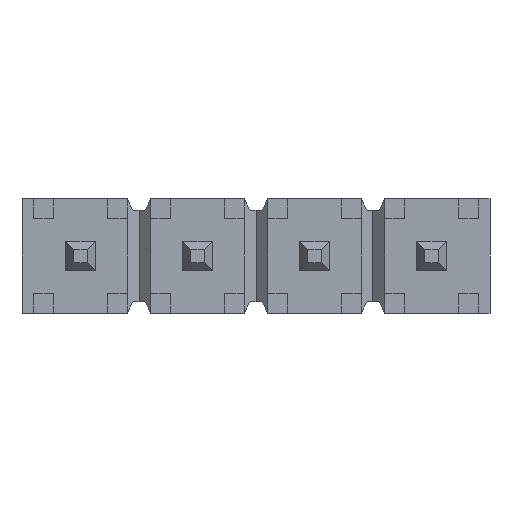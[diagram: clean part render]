
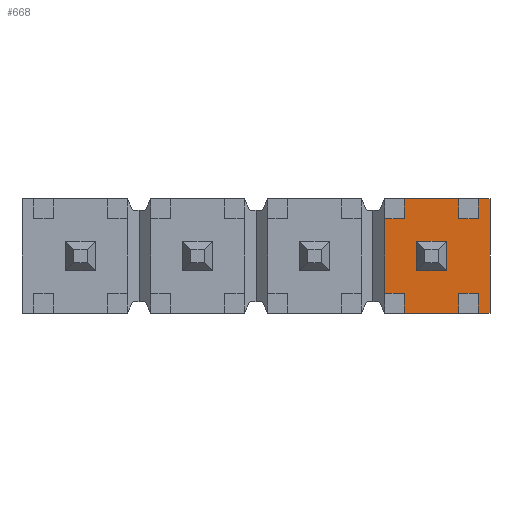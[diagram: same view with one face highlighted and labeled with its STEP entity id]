
A CAD part, front view. The second image highlights one B-rep face of the part: STEP entity #668.
In plain terms, the highlighted planar face has unit normal (0, -1, 0).
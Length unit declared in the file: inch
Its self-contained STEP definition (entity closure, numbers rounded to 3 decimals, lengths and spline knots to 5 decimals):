
#668 = ADVANCED_FACE( '', ( #1329, #1330 ), #1331, .T. );
#1329 = FACE_OUTER_BOUND( '', #1977, .T. );
#1330 = FACE_BOUND( '', #1978, .T. );
#1331 = PLANE( '', #1979 );
#1977 = EDGE_LOOP( '', ( #3768, #3769, #3770, #3771, #3772, #3773, #3774, #3775, #3776, #3777, #3778, #3779, #3780, #3781, #3782, #3783 ) );
#1978 = EDGE_LOOP( '', ( #3784, #3785, #3786, #3787 ) );
#1979 = AXIS2_PLACEMENT_3D( '', #3788, #3789, #3790 );
#3768 = ORIENTED_EDGE( '', *, *, #4359, .T. );
#3769 = ORIENTED_EDGE( '', *, *, #4564, .T. );
#3770 = ORIENTED_EDGE( '', *, *, #4173, .T. );
#3771 = ORIENTED_EDGE( '', *, *, #4110, .T. );
#3772 = ORIENTED_EDGE( '', *, *, #4376, .F. );
#3773 = ORIENTED_EDGE( '', *, *, #4563, .T. );
#3774 = ORIENTED_EDGE( '', *, *, #4511, .T. );
#3775 = ORIENTED_EDGE( '', *, *, #4463, .T. );
#3776 = ORIENTED_EDGE( '', *, *, #4368, .F. );
#3777 = ORIENTED_EDGE( '', *, *, #4006, .F. );
#3778 = ORIENTED_EDGE( '', *, *, #4298, .T. );
#3779 = ORIENTED_EDGE( '', *, *, #4049, .T. );
#3780 = ORIENTED_EDGE( '', *, *, #3878, .F. );
#3781 = ORIENTED_EDGE( '', *, *, #4131, .F. );
#3782 = ORIENTED_EDGE( '', *, *, #4037, .T. );
#3783 = ORIENTED_EDGE( '', *, *, #4048, .T. );
#3784 = ORIENTED_EDGE( '', *, *, #4028, .F. );
#3785 = ORIENTED_EDGE( '', *, *, #4429, .F. );
#3786 = ORIENTED_EDGE( '', *, *, #3995, .F. );
#3787 = ORIENTED_EDGE( '', *, *, #4502, .F. );
#3788 = CARTESIAN_POINT( '', ( 0.23637, 0.02, 0.098 ) );
#3789 = DIRECTION( '', ( 0., -1., 0. ) );
#3790 = DIRECTION( '', ( 1., 0., 0. ) );
#3878 = EDGE_CURVE( '', #4613, #4615, #4616, .T. );
#3995 = EDGE_CURVE( '', #4822, #4824, #4825, .T. );
#4006 = EDGE_CURVE( '', #4842, #4844, #4845, .T. );
#4028 = EDGE_CURVE( '', #4877, #4879, #4880, .T. );
#4037 = EDGE_CURVE( '', #4894, #4895, #4896, .T. );
#4048 = EDGE_CURVE( '', #4895, #4911, #4913, .T. );
#4049 = EDGE_CURVE( '', #4914, #4615, #4915, .T. );
#4110 = EDGE_CURVE( '', #5009, #5007, #5010, .T. );
#4131 = EDGE_CURVE( '', #4894, #4613, #5044, .T. );
#4173 = EDGE_CURVE( '', #5105, #5009, #5106, .T. );
#4298 = EDGE_CURVE( '', #4842, #4914, #5281, .T. );
#4359 = EDGE_CURVE( '', #4911, #5360, #5361, .T. );
#4368 = EDGE_CURVE( '', #4844, #5367, #5375, .T. );
#4376 = EDGE_CURVE( '', #5384, #5007, #5385, .T. );
#4429 = EDGE_CURVE( '', #4824, #4877, #5454, .T. );
#4463 = EDGE_CURVE( '', #5496, #5367, #5497, .T. );
#4502 = EDGE_CURVE( '', #4879, #4822, #5538, .T. );
#4511 = EDGE_CURVE( '', #5548, #5496, #5549, .T. );
#4563 = EDGE_CURVE( '', #5384, #5548, #5603, .T. );
#4564 = EDGE_CURVE( '', #5360, #5105, #5604, .T. );
#4613 = VERTEX_POINT( '', #5669 );
#4615 = VERTEX_POINT( '', #5672 );
#4616 = LINE( '', #5673, #5674 );
#4822 = VERTEX_POINT( '', #5975 );
#4824 = VERTEX_POINT( '', #5978 );
#4825 = LINE( '', #5979, #5980 );
#4842 = VERTEX_POINT( '', #6004 );
#4844 = VERTEX_POINT( '', #6007 );
#4845 = LINE( '', #6008, #6009 );
#4877 = VERTEX_POINT( '', #6056 );
#4879 = VERTEX_POINT( '', #6059 );
#4880 = LINE( '', #6060, #6061 );
#4894 = VERTEX_POINT( '', #6081 );
#4895 = VERTEX_POINT( '', #6082 );
#4896 = LINE( '', #6083, #6084 );
#4911 = VERTEX_POINT( '', #6106 );
#4913 = LINE( '', #6109, #6110 );
#4914 = VERTEX_POINT( '', #6111 );
#4915 = LINE( '', #6112, #6113 );
#5007 = VERTEX_POINT( '', #6250 );
#5009 = VERTEX_POINT( '', #6253 );
#5010 = LINE( '', #6254, #6255 );
#5044 = LINE( '', #6304, #6305 );
#5105 = VERTEX_POINT( '', #6396 );
#5106 = LINE( '', #6397, #6398 );
#5281 = LINE( '', #6668, #6669 );
#5360 = VERTEX_POINT( '', #6791 );
#5361 = LINE( '', #6792, #6793 );
#5367 = VERTEX_POINT( '', #6801 );
#5375 = LINE( '', #6814, #6815 );
#5384 = VERTEX_POINT( '', #6828 );
#5385 = LINE( '', #6829, #6830 );
#5454 = LINE( '', #6934, #6935 );
#5496 = VERTEX_POINT( '', #7000 );
#5497 = LINE( '', #7001, #7002 );
#5538 = LINE( '', #7065, #7066 );
#5548 = VERTEX_POINT( '', #7080 );
#5549 = LINE( '', #7081, #7082 );
#5603 = LINE( '', #7154, #7155 );
#5604 = LINE( '', #7156, #7157 );
#5669 = CARTESIAN_POINT( '', ( 0.17312, 0.02, -0.032 ) );
#5672 = CARTESIAN_POINT( '', ( 0.17312, 0.02, -0.049 ) );
#5673 = CARTESIAN_POINT( '', ( 0.17312, 0.02, 0.098 ) );
#5674 = VECTOR( '', #7187, 39.37008 );
#5975 = CARTESIAN_POINT( '', ( 0.1625, 0.02, -0.0125 ) );
#5978 = CARTESIAN_POINT( '', ( 0.1625, 0.02, 0.0125 ) );
#5979 = CARTESIAN_POINT( '', ( 0.1625, 0.02, 0.0125 ) );
#5980 = VECTOR( '', #7284, 39.37008 );
#6004 = CARTESIAN_POINT( '', ( 0.12688, 0.02, -0.032 ) );
#6007 = CARTESIAN_POINT( '', ( 0.11, 0.02, -0.032 ) );
#6008 = CARTESIAN_POINT( '', ( 0.4, 0.02, -0.032 ) );
#6009 = VECTOR( '', #7293, 39.37008 );
#6056 = CARTESIAN_POINT( '', ( 0.1375, 0.02, 0.0125 ) );
#6059 = CARTESIAN_POINT( '', ( 0.1375, 0.02, -0.0125 ) );
#6060 = CARTESIAN_POINT( '', ( 0.1375, 0.02, -0.0125 ) );
#6061 = VECTOR( '', #7310, 39.37008 );
#6081 = CARTESIAN_POINT( '', ( 0.19012, 0.02, -0.032 ) );
#6082 = CARTESIAN_POINT( '', ( 0.19012, 0.02, -0.049 ) );
#6083 = CARTESIAN_POINT( '', ( 0.19012, 0.02, 0.098 ) );
#6084 = VECTOR( '', #7317, 39.37008 );
#6106 = CARTESIAN_POINT( '', ( 0.2, 0.02, -0.049 ) );
#6109 = CARTESIAN_POINT( '', ( 0.2, 0.02, -0.049 ) );
#6110 = VECTOR( '', #7326, 39.37008 );
#6111 = CARTESIAN_POINT( '', ( 0.12688, 0.02, -0.049 ) );
#6112 = CARTESIAN_POINT( '', ( 0.2, 0.02, -0.049 ) );
#6113 = VECTOR( '', #7327, 39.37008 );
#6250 = CARTESIAN_POINT( '', ( 0.17312, 0.02, 0.032 ) );
#6253 = CARTESIAN_POINT( '', ( 0.19012, 0.02, 0.032 ) );
#6254 = CARTESIAN_POINT( '', ( 0.4, 0.02, 0.032 ) );
#6255 = VECTOR( '', #7374, 39.37008 );
#6304 = CARTESIAN_POINT( '', ( 0.4, 0.02, -0.032 ) );
#6305 = VECTOR( '', #7390, 39.37008 );
#6396 = CARTESIAN_POINT( '', ( 0.19012, 0.02, 0.049 ) );
#6397 = CARTESIAN_POINT( '', ( 0.19012, 0.02, 0.098 ) );
#6398 = VECTOR( '', #7421, 39.37008 );
#6668 = CARTESIAN_POINT( '', ( 0.12688, 0.02, 0.098 ) );
#6669 = VECTOR( '', #7517, 39.37008 );
#6791 = CARTESIAN_POINT( '', ( 0.2, 0.02, 0.049 ) );
#6792 = CARTESIAN_POINT( '', ( 0.2, 0.02, 0.049 ) );
#6793 = VECTOR( '', #7561, 39.37008 );
#6801 = CARTESIAN_POINT( '', ( 0.11, 0.02, 0.032 ) );
#6814 = CARTESIAN_POINT( '', ( 0.11, 0.02, 0.4 ) );
#6815 = VECTOR( '', #7569, 39.37008 );
#6828 = CARTESIAN_POINT( '', ( 0.17312, 0.02, 0.049 ) );
#6829 = CARTESIAN_POINT( '', ( 0.17312, 0.02, 0.098 ) );
#6830 = VECTOR( '', #7574, 39.37008 );
#6934 = CARTESIAN_POINT( '', ( 0.1375, 0.02, 0.0125 ) );
#6935 = VECTOR( '', #7610, 39.37008 );
#7000 = CARTESIAN_POINT( '', ( 0.12688, 0.02, 0.032 ) );
#7001 = CARTESIAN_POINT( '', ( 0.4, 0.02, 0.032 ) );
#7002 = VECTOR( '', #7634, 39.37008 );
#7065 = CARTESIAN_POINT( '', ( 0.1625, 0.02, -0.0125 ) );
#7066 = VECTOR( '', #7657, 39.37008 );
#7080 = CARTESIAN_POINT( '', ( 0.12688, 0.02, 0.049 ) );
#7081 = CARTESIAN_POINT( '', ( 0.12688, 0.02, 0.098 ) );
#7082 = VECTOR( '', #7662, 39.37008 );
#7154 = CARTESIAN_POINT( '', ( -0.2, 0.02, 0.049 ) );
#7155 = VECTOR( '', #7681, 39.37008 );
#7156 = CARTESIAN_POINT( '', ( -0.2, 0.02, 0.049 ) );
#7157 = VECTOR( '', #7682, 39.37008 );
#7187 = DIRECTION( '', ( 0., 0., -1. ) );
#7284 = DIRECTION( '', ( 0., 0., 1. ) );
#7293 = DIRECTION( '', ( -1., 0., 0. ) );
#7310 = DIRECTION( '', ( 0., 0., -1. ) );
#7317 = DIRECTION( '', ( 0., 0., -1. ) );
#7326 = DIRECTION( '', ( 1., 0., 0. ) );
#7327 = DIRECTION( '', ( 1., 0., 0. ) );
#7374 = DIRECTION( '', ( -1., 0., 0. ) );
#7390 = DIRECTION( '', ( -1., 0., 0. ) );
#7421 = DIRECTION( '', ( 0., 0., -1. ) );
#7517 = DIRECTION( '', ( 0., 0., -1. ) );
#7561 = DIRECTION( '', ( 0., 0., 1. ) );
#7569 = DIRECTION( '', ( 0., 0., 1. ) );
#7574 = DIRECTION( '', ( 0., 0., -1. ) );
#7610 = DIRECTION( '', ( -1., 0., 0. ) );
#7634 = DIRECTION( '', ( -1., 0., 0. ) );
#7657 = DIRECTION( '', ( 1., 0., 0. ) );
#7662 = DIRECTION( '', ( 0., 0., -1. ) );
#7681 = DIRECTION( '', ( -1., 0., 0. ) );
#7682 = DIRECTION( '', ( -1., 0., 0. ) );
